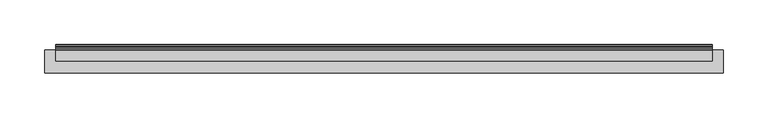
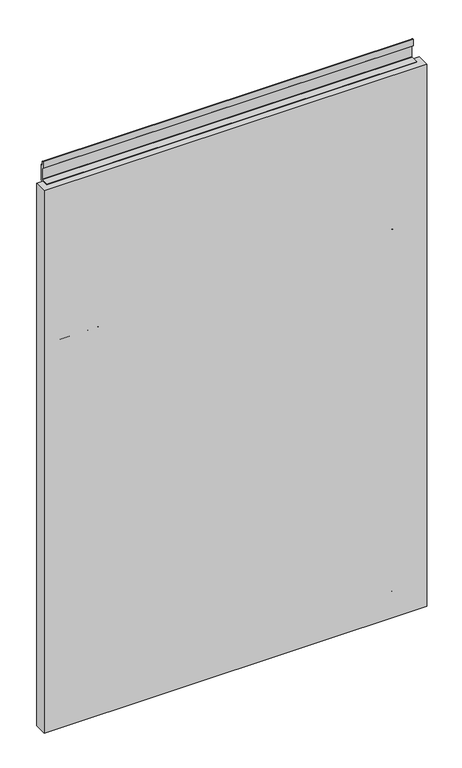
"""IFC4 building model written with IfcOpenShell, lengths in millimetres: furniture geometry, Geiger_GeigerOneCasegoods_WallTileAcceptsTileAboveFabric : Fabric 30Wx 1.25Dx 45H."""

from ifc_helpers import new_model, si_unit, point, frame, frame_2d, origin, origin_with_axes, place, context, project, spatial, polyline, circle_curve, trimmed, segment, composite_curve, outline, extrude, source, transform, mapped, element, save


def furniture_a1cb8eb2(model_context):
    return source(origin(), model_context, "Body", "SweptSolid", [
        extrude(outline(composite_curve([segment(polyline([(-3.5052, 46.3366), (-2.6924, 45.5238), (-0.8128, 45.5238), (0.0, 44.7364), (0.0, 31.3197095)]), True, "CONTINUOUS"), segment(trimmed(circle_curve(frame_2d((-0.7973236, 31.3197095)), 0.7973236), [point((0.0, 31.3197095))], [point((-1.3611166, 30.7559166))], False, "CARTESIAN"), True, "CONTINUOUS"), segment(polyline([(-1.3611166, 30.7559166), (-2.8956, 32.2904), (-2.8956, 39.2246), (-3.7084, 40.012), (-5.6134, 40.012), (-6.4008, 40.8248), (-6.4008, 72.524), (-5.1054, 72.524), (-3.5052, 70.9238), (-3.5052, 46.3366)]), True, "CONTINUOUS")], self_intersect=False)), frame((50.0016, 0.0, 0.0), z_axis=(1.0, 0.0, 0.0), x_axis=(0.0, 1.0, 0.0)), (0.0, 0.0, 1.0), 75.9968),
        extrude(outline(composite_curve([segment(polyline([(-3.5052, 808.2186), (-2.6924, 807.4058), (-0.8128, 807.4058), (0.0, 806.6184), (0.0, 793.2017095)]), True, "CONTINUOUS"), segment(trimmed(circle_curve(frame_2d((-0.7973236, 793.2017095)), 0.7973236), [point((0.0, 793.2017095))], [point((-1.3611166, 792.6379166))], False, "CARTESIAN"), True, "CONTINUOUS"), segment(polyline([(-1.3611166, 792.6379166), (-2.8956, 794.1724), (-2.8956, 801.1066), (-3.7084, 801.894), (-5.6134, 801.894), (-6.4008, 802.7068), (-6.4008, 834.406), (-5.1054, 834.406), (-3.5052, 832.8058), (-3.5052, 808.2186)]), True, "CONTINUOUS")], self_intersect=False)), frame((50.0016, 0.0, 0.0), z_axis=(1.0, 0.0, 0.0), x_axis=(0.0, 1.0, 0.0)), (0.0, 0.0, 1.0), 75.9968),
        extrude(outline(composite_curve([segment(polyline([(-3.5052, 808.2186), (-2.6924, 807.4058), (-0.8128, 807.4058), (0.0, 806.6184), (0.0, 793.2017095)]), True, "CONTINUOUS"), segment(trimmed(circle_curve(frame_2d((-0.7973236, 793.2017095)), 0.7973236), [point((0.0, 793.2017095))], [point((-1.3611166, 792.6379166))], False, "CARTESIAN"), True, "CONTINUOUS"), segment(polyline([(-1.3611166, 792.6379166), (-2.8956, 794.1724), (-2.8956, 801.1066), (-3.7084, 801.894), (-5.6134, 801.894), (-6.4008, 802.7068), (-6.4008, 834.406), (-5.1054, 834.406), (-3.5052, 832.8058), (-3.5052, 808.2186)]), True, "CONTINUOUS")], self_intersect=False)), frame((636.0016, 0.0, 0.0), z_axis=(1.0, 0.0, 0.0), x_axis=(0.0, 1.0, 0.0)), (0.0, 0.0, 1.0), 75.9968),
        extrude(outline(composite_curve([segment(polyline([(-3.506, 800.1156), (-3.506, 793.1814), (-2.6932, 792.394), (-0.7882, 792.394), (-0.0008, 791.5812), (-0.0008, 759.882), (-1.2962, 759.882), (-2.8964, 761.4822), (-2.8964, 786.0694), (-3.7092, 786.8822), (-5.5888, 786.8822), (-6.4016, 787.6696), (-6.4016, 801.0883458)]), True, "CONTINUOUS"), segment(trimmed(circle_curve(frame_2d((-5.6051277, 801.0883458)), 0.7964723), [point((-6.4016, 801.0883458))], [point((-5.0419368, 801.6515368))], False, "CARTESIAN"), True, "CONTINUOUS"), segment(polyline([(-5.0419368, 801.6515368), (-3.506, 800.1156)]), True, "CONTINUOUS")], self_intersect=False)), frame((12.5, 0.0, 0.0), z_axis=(1.0, 0.0, 0.0), x_axis=(0.0, 1.0, 0.0)), (0.0, 0.0, 1.0), 737.0),
        extrude(outline(polyline([(762.0, -6.4008), (762.0, -32.4008), (0.0, -32.4008), (0.0, -6.4008), (762.0, -6.4008)])), origin_with_axes(), (0.0, 0.0, 1.0), 1142.0),
        extrude(outline(composite_curve([segment(polyline([(-3.5052, 46.3366), (-2.6924, 45.5238), (-0.8128, 45.5238), (0.0, 44.7364), (0.0, 31.3197095)]), True, "CONTINUOUS"), segment(trimmed(circle_curve(frame_2d((-0.7973236, 31.3197095)), 0.7973236), [point((0.0, 31.3197095))], [point((-1.3611166, 30.7559166))], False, "CARTESIAN"), True, "CONTINUOUS"), segment(polyline([(-1.3611166, 30.7559166), (-2.8956, 32.2904), (-2.8956, 39.2246), (-3.7084, 40.012), (-5.6134, 40.012), (-6.4008, 40.8248), (-6.4008, 72.524), (-5.1054, 72.524), (-3.5052, 70.9238), (-3.5052, 46.3366)]), True, "CONTINUOUS")], self_intersect=False)), frame((636.0, 0.0, 0.0), z_axis=(1.0, 0.0, 0.0), x_axis=(0.0, 1.0, 0.0)), (0.0, 0.0, 1.0), 76.0),
        extrude(outline(composite_curve([segment(polyline([(-3.5052, 1182.2336), (-3.5052, 1175.2994), (-2.7178, 1174.512), (-0.8128, 1174.512), (0.0, 1173.6992), (0.0, 1140.3998), (-2.6924, 1140.3998), (-3.5052, 1139.6124), (-3.5052, 1125.8964), (-2.6924, 1125.109), (0.0, 1125.109), (0.0, 1122.188), (-5.6134, 1122.188), (-6.4008, 1123.0008), (-6.4008, 1142.0), (-18.9992, 1142.0), (-18.9992, 1143.6002), (-3.7084, 1143.6002), (-2.8956, 1144.3876), (-2.8956, 1168.2128), (-3.7084, 1169.0002), (-5.6134, 1169.0002), (-6.4008, 1169.813), (-6.4008, 1183.2057925)]), True, "CONTINUOUS"), segment(trimmed(circle_curve(frame_2d((-5.6040985, 1183.2057925)), 0.7967015), [point((-6.4008, 1183.2057925))], [point((-5.0407455, 1183.7691455))], False, "CARTESIAN"), True, "CONTINUOUS"), segment(polyline([(-5.0407455, 1183.7691455), (-3.5052, 1182.2336)]), True, "CONTINUOUS")], self_intersect=False)), frame((12.5, 0.0, 0.0), z_axis=(1.0, 0.0, 0.0), x_axis=(0.0, 1.0, 0.0)), (0.0, 0.0, 1.0), 737.0),
    ])


if __name__ == "__main__":
    model = new_model("IFC4")
    model_context = context("Model", 3, world=origin())
    ifc_project = project(units=[si_unit("LENGTHUNIT", "METRE", prefix="MILLI")], contexts=[model_context])
    site = spatial("IfcSite", under=ifc_project)
    building = spatial("IfcBuilding", under=site)
    placement = place(None, origin())
    furniture_shape = furniture_a1cb8eb2(model_context)
    element("IfcFurniture", 1, ObjectType="Geiger_GeigerOneCasegoods_WallTileAcceptsTileAboveFabric : Fabric 30Wx 1.25Dx 45H", at=placement, inside=building, context=model_context, shape_type="MappedRepresentation", body=[
        mapped(furniture_shape, transform((0.0, 0.0, 0.0), x_axis=(1.0, 0.0, 0.0), y_axis=(0.0, 1.0, 0.0), z_axis=(0.0, 0.0, 1.0))),
    ])
    save(model, "model.ifc")
